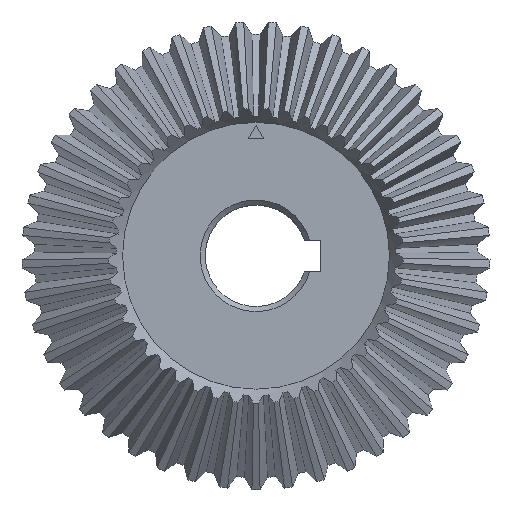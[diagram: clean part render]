
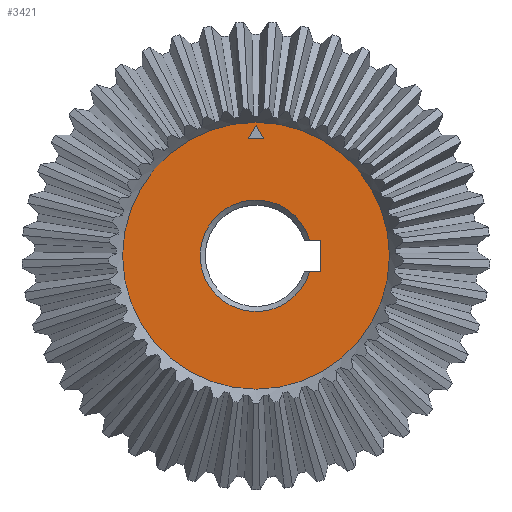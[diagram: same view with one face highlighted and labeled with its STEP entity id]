
A CAD part, top view. The second image highlights one B-rep face of the part: STEP entity #3421.
In plain terms, the highlighted planar face has unit normal (0, 0, 1).
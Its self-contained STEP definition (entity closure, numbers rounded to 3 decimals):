
#470=FACE_BOUND('',#983,.T.);
#471=FACE_BOUND('',#984,.T.);
#483=CIRCLE('',#3650,11.);
#484=CIRCLE('',#3654,26.296);
#780=FACE_OUTER_BOUND('',#982,.T.);
#982=EDGE_LOOP('',(#2287));
#983=EDGE_LOOP('',(#2288,#2289,#2290));
#984=EDGE_LOOP('',(#2291,#2292,#2293,#2294));
#1179=LINE('',#4594,#1211);
#1183=LINE('',#4602,#1215);
#1186=LINE('',#4607,#1218);
#1196=LINE('',#4651,#1228);
#1197=LINE('',#4663,#1229);
#1199=LINE('',#4666,#1231);
#1211=VECTOR('',#3952,10.);
#1215=VECTOR('',#3958,10.);
#1218=VECTOR('',#3963,10.);
#1228=VECTOR('',#4001,10.);
#1229=VECTOR('',#4008,10.);
#1231=VECTOR('',#4012,10.);
#1240=VERTEX_POINT('',#4592);
#1241=VERTEX_POINT('',#4593);
#1244=VERTEX_POINT('',#4601);
#1258=VERTEX_POINT('',#4648);
#1259=VERTEX_POINT('',#4650);
#1260=VERTEX_POINT('',#4656);
#1261=VERTEX_POINT('',#4662);
#1262=VERTEX_POINT('',#4668);
#1635=EDGE_CURVE('',#1240,#1241,#1179,.T.);
#1639=EDGE_CURVE('',#1244,#1240,#1183,.T.);
#1642=EDGE_CURVE('',#1241,#1244,#1186,.T.);
#1661=EDGE_CURVE('',#1259,#1258,#1196,.T.);
#1663=EDGE_CURVE('',#1259,#1260,#483,.T.);
#1665=EDGE_CURVE('',#1261,#1260,#1197,.T.);
#1667=EDGE_CURVE('',#1258,#1261,#1199,.T.);
#1668=EDGE_CURVE('',#1262,#1262,#484,.T.);
#2287=ORIENTED_EDGE('',*,*,#1668,.T.);
#2288=ORIENTED_EDGE('',*,*,#1635,.T.);
#2289=ORIENTED_EDGE('',*,*,#1642,.T.);
#2290=ORIENTED_EDGE('',*,*,#1639,.T.);
#2291=ORIENTED_EDGE('',*,*,#1663,.F.);
#2292=ORIENTED_EDGE('',*,*,#1661,.T.);
#2293=ORIENTED_EDGE('',*,*,#1667,.T.);
#2294=ORIENTED_EDGE('',*,*,#1665,.T.);
#3402=PLANE('',#3653);
#3421=ADVANCED_FACE('',(#780,#470,#471),#3402,.F.);
#3650=AXIS2_PLACEMENT_3D('',#4657,#4004,#4005);
#3653=AXIS2_PLACEMENT_3D('',#4667,#4013,#4014);
#3654=AXIS2_PLACEMENT_3D('',#4669,#4015,#4016);
#3952=DIRECTION('',(0.5,-0.866,0.));
#3958=DIRECTION('',(0.5,0.866,0.));
#3963=DIRECTION('',(-1.,0.,0.));
#4001=DIRECTION('',(1.,0.,0.));
#4004=DIRECTION('center_axis',(0.,0.,1.));
#4005=DIRECTION('ref_axis',(-1.,0.,0.));
#4008=DIRECTION('',(-1.,0.,0.));
#4012=DIRECTION('',(0.,-1.,0.));
#4013=DIRECTION('center_axis',(0.,0.,-1.));
#4014=DIRECTION('ref_axis',(-1.,0.,0.));
#4015=DIRECTION('center_axis',(0.,0.,1.));
#4016=DIRECTION('ref_axis',(1.,0.,0.));
#4592=CARTESIAN_POINT('',(0.,25.732,-22.));
#4593=CARTESIAN_POINT('',(1.5,23.134,-22.));
#4594=CARTESIAN_POINT('',(11.264,6.221,-22.));
#4601=CARTESIAN_POINT('',(-1.5,23.134,-22.));
#4602=CARTESIAN_POINT('',(-12.014,4.922,-22.));
#4607=CARTESIAN_POINT('',(0.75,23.134,-22.));
#4648=CARTESIAN_POINT('',(12.8,3.,-22.));
#4650=CARTESIAN_POINT('',(10.583,3.,-22.));
#4651=CARTESIAN_POINT('',(4.77,3.,-22.));
#4656=CARTESIAN_POINT('',(10.583,-3.,-22.));
#4657=CARTESIAN_POINT('Origin',(0.,0.,-22.));
#4662=CARTESIAN_POINT('',(12.8,-3.,-22.));
#4663=CARTESIAN_POINT('',(6.4,-3.,-22.));
#4666=CARTESIAN_POINT('',(12.8,-11.648,-22.));
#4667=CARTESIAN_POINT('Origin',(0.,-26.296,-22.));
#4668=CARTESIAN_POINT('',(0.,-26.296,-22.));
#4669=CARTESIAN_POINT('Origin',(0.,0.,-22.));
